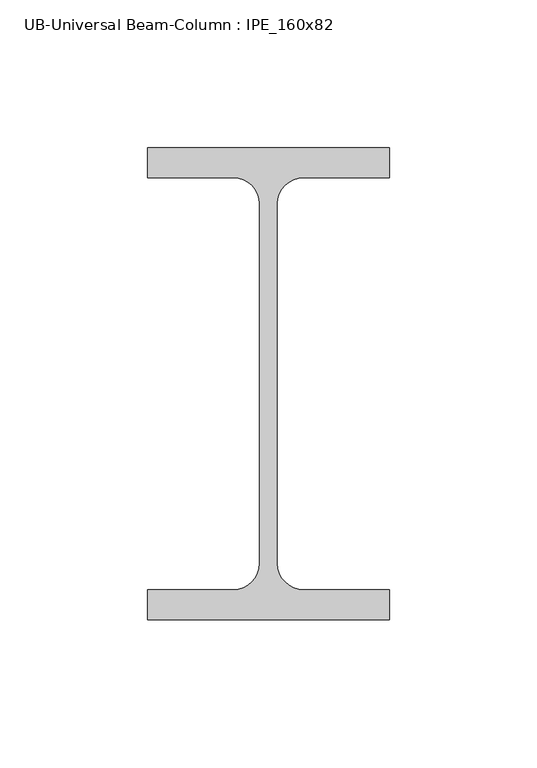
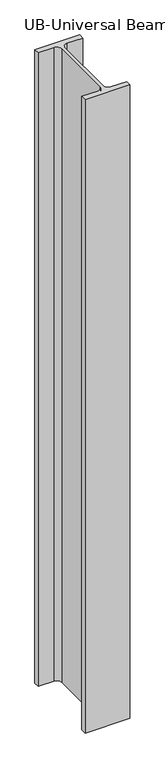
"""IFC4 building model written with IfcOpenShell, lengths in millimetres: column geometry, UB-Universal Beam-Column : IPE_160x82."""

from ifc_helpers import new_model, si_unit, point, frame, frame_2d, origin, place, context, project, spatial, polyline, circle_curve, trimmed, segment, composite_curve, outline, extrude, source, transform, mapped, element, save


def ub_universal_beam_column_ipe_160x82_506ee74c(model_context):
    return source(origin(), model_context, "Body", "SweptSolid", [
        extrude(outline(composite_curve([segment(polyline([(41.0, -80.0), (-41.0, -80.0), (-41.0, -69.8), (-11.9, -69.8)]), True, "CONTINUOUS"), segment(trimmed(circle_curve(frame_2d((-11.9, -60.9)), 8.9), [point((-11.9, -69.8))], [point((-3.0, -60.9))], True, "CARTESIAN"), True, "CONTINUOUS"), segment(polyline([(-3.0, -60.9), (-3.0, 60.9)]), True, "CONTINUOUS"), segment(trimmed(circle_curve(frame_2d((-11.9, 60.9)), 8.9), [point((-3.0, 60.9))], [point((-11.9, 69.8))], True, "CARTESIAN"), True, "CONTINUOUS"), segment(polyline([(-11.9, 69.8), (-41.0, 69.8), (-41.0, 80.0), (41.0, 80.0), (41.0, 69.8), (11.9, 69.8)]), True, "CONTINUOUS"), segment(trimmed(circle_curve(frame_2d((11.9, 60.9)), 8.9), [point((11.9, 69.8))], [point((3.0, 60.9))], True, "CARTESIAN"), True, "CONTINUOUS"), segment(polyline([(3.0, 60.9), (3.0, -60.9)]), True, "CONTINUOUS"), segment(trimmed(circle_curve(frame_2d((11.9, -60.9)), 8.9), [point((3.0, -60.9))], [point((11.9, -69.8))], True, "CARTESIAN"), True, "CONTINUOUS"), segment(polyline([(11.9, -69.8), (41.0, -69.8), (41.0, -80.0)]), True, "CONTINUOUS")], self_intersect=False)), frame((0.0, 0.0, 4940.0), z_axis=(0.0, 0.0, 1.0), x_axis=(1.0, 0.0, 0.0)), (0.0, 0.0, 1.0), 1230.0),
    ])


if __name__ == "__main__":
    model = new_model("IFC4")
    model_context = context("Model", 3, world=origin())
    ifc_project = project(units=[si_unit("LENGTHUNIT", "METRE", prefix="MILLI")], contexts=[model_context])
    site = spatial("IfcSite", under=ifc_project)
    building = spatial("IfcBuilding", under=site)
    placement = place(None, origin())
    ub_universal_beam_column_ipe_160x82_shape = ub_universal_beam_column_ipe_160x82_506ee74c(model_context)
    element("IfcColumn", 1, ObjectType="UB-Universal Beam-Column : IPE_160x82", at=placement, inside=building, context=model_context, shape_type="MappedRepresentation", body=[
        mapped(ub_universal_beam_column_ipe_160x82_shape, transform((0.0, 0.0, 0.0), x_axis=(1.0, 0.0, 0.0), y_axis=(0.0, 1.0, 0.0), z_axis=(0.0, 0.0, 1.0))),
    ])
    save(model, "model.ifc")
